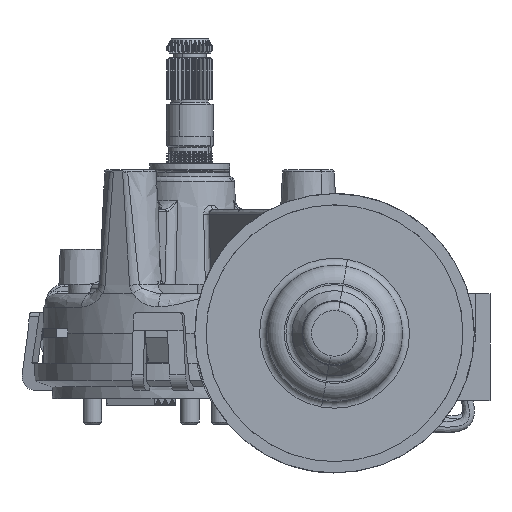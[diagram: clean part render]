
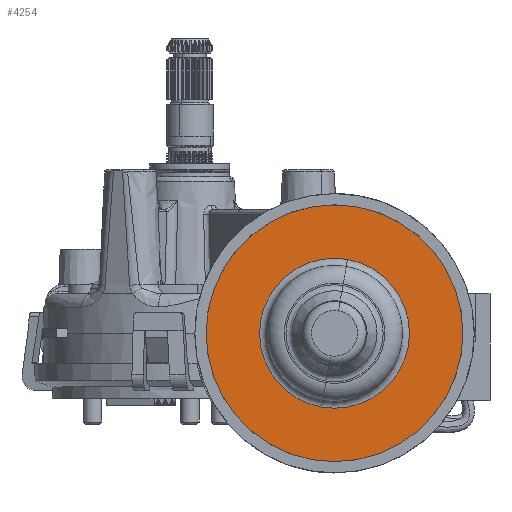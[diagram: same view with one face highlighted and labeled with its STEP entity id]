
A CAD part, front view. The second image highlights one B-rep face of the part: STEP entity #4254.
In plain terms, the highlighted planar face has unit normal (0, -1, 0).
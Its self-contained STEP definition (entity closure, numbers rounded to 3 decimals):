
#4152=AXIS2_PLACEMENT_3D('Plane Axis2P3D',#4149,#4150,#4151) ;
#4156=AXIS2_PLACEMENT_3D('Circle Axis2P3D',#4154,#4155,$) ;
#4165=AXIS2_PLACEMENT_3D('Circle Axis2P3D',#4163,#4164,$) ;
#4172=AXIS2_PLACEMENT_3D('Circle Axis2P3D',#4170,#4171,$) ;
#4179=AXIS2_PLACEMENT_3D('Circle Axis2P3D',#4177,#4178,$) ;
#4186=AXIS2_PLACEMENT_3D('Circle Axis2P3D',#4184,#4185,$) ;
#4193=AXIS2_PLACEMENT_3D('Circle Axis2P3D',#4191,#4192,$) ;
#4200=AXIS2_PLACEMENT_3D('Circle Axis2P3D',#4198,#4199,$) ;
#4207=AXIS2_PLACEMENT_3D('Circle Axis2P3D',#4205,#4206,$) ;
#4214=AXIS2_PLACEMENT_3D('Circle Axis2P3D',#4212,#4213,$) ;
#4221=AXIS2_PLACEMENT_3D('Circle Axis2P3D',#4219,#4220,$) ;
#4238=AXIS2_PLACEMENT_3D('Circle Axis2P3D',#4236,#4237,$) ;
#4247=AXIS2_PLACEMENT_3D('Circle Axis2P3D',#4245,#4246,$) ;
#4149=CARTESIAN_POINT('Axis2P3D Location',(31.,-111.3,9.5)) ;
#4154=CARTESIAN_POINT('Axis2P3D Location',(31.,-111.3,9.5)) ;
#4158=CARTESIAN_POINT('Vertex',(35.775,-111.3,36.582)) ;
#4160=CARTESIAN_POINT('Vertex',(34.49,-111.3,36.778)) ;
#4163=CARTESIAN_POINT('Axis2P3D Location',(31.,-111.3,9.5)) ;
#4167=CARTESIAN_POINT('Vertex',(7.861,-111.3,24.36)) ;
#4170=CARTESIAN_POINT('Axis2P3D Location',(31.,-111.3,9.5)) ;
#4174=CARTESIAN_POINT('Vertex',(3.722,-111.3,12.99)) ;
#4177=CARTESIAN_POINT('Axis2P3D Location',(31.,-111.3,9.5)) ;
#4181=CARTESIAN_POINT('Vertex',(16.14,-111.3,-13.639)) ;
#4184=CARTESIAN_POINT('Axis2P3D Location',(31.,-111.3,9.5)) ;
#4188=CARTESIAN_POINT('Vertex',(26.225,-111.3,-17.582)) ;
#4191=CARTESIAN_POINT('Axis2P3D Location',(31.,-111.3,9.5)) ;
#4195=CARTESIAN_POINT('Vertex',(27.51,-111.3,-17.778)) ;
#4198=CARTESIAN_POINT('Axis2P3D Location',(31.,-111.3,9.5)) ;
#4202=CARTESIAN_POINT('Vertex',(54.139,-111.3,-5.36)) ;
#4205=CARTESIAN_POINT('Axis2P3D Location',(31.,-111.3,9.5)) ;
#4209=CARTESIAN_POINT('Vertex',(58.278,-111.3,6.01)) ;
#4212=CARTESIAN_POINT('Axis2P3D Location',(31.,-111.3,9.5)) ;
#4216=CARTESIAN_POINT('Vertex',(45.86,-111.3,32.639)) ;
#4219=CARTESIAN_POINT('Axis2P3D Location',(31.,-111.3,9.5)) ;
#4236=CARTESIAN_POINT('Axis2P3D Location',(31.,-111.3,9.5)) ;
#4240=CARTESIAN_POINT('Vertex',(33.787,-111.3,25.306)) ;
#4242=CARTESIAN_POINT('Vertex',(28.213,-111.3,-6.306)) ;
#4245=CARTESIAN_POINT('Axis2P3D Location',(31.,-111.3,9.5)) ;
#4150=DIRECTION('Axis2P3D Direction',(0.,-1.,0.)) ;
#4151=DIRECTION('Axis2P3D XDirection',(0.174,0.,0.985)) ;
#4155=DIRECTION('Axis2P3D Direction',(0.,-1.,0.)) ;
#4164=DIRECTION('Axis2P3D Direction',(0.,-1.,0.)) ;
#4171=DIRECTION('Axis2P3D Direction',(0.,-1.,0.)) ;
#4178=DIRECTION('Axis2P3D Direction',(0.,-1.,0.)) ;
#4185=DIRECTION('Axis2P3D Direction',(0.,-1.,0.)) ;
#4192=DIRECTION('Axis2P3D Direction',(0.,-1.,0.)) ;
#4199=DIRECTION('Axis2P3D Direction',(0.,-1.,0.)) ;
#4206=DIRECTION('Axis2P3D Direction',(0.,-1.,0.)) ;
#4213=DIRECTION('Axis2P3D Direction',(0.,-1.,0.)) ;
#4220=DIRECTION('Axis2P3D Direction',(0.,-1.,0.)) ;
#4237=DIRECTION('Axis2P3D Direction',(0.,-1.,0.)) ;
#4246=DIRECTION('Axis2P3D Direction',(0.,-1.,0.)) ;
#4225=ORIENTED_EDGE('',*,*,#4162,.T.) ;
#4226=ORIENTED_EDGE('',*,*,#4169,.T.) ;
#4227=ORIENTED_EDGE('',*,*,#4176,.T.) ;
#4228=ORIENTED_EDGE('',*,*,#4183,.T.) ;
#4229=ORIENTED_EDGE('',*,*,#4190,.T.) ;
#4230=ORIENTED_EDGE('',*,*,#4197,.T.) ;
#4231=ORIENTED_EDGE('',*,*,#4204,.T.) ;
#4232=ORIENTED_EDGE('',*,*,#4211,.T.) ;
#4233=ORIENTED_EDGE('',*,*,#4218,.T.) ;
#4234=ORIENTED_EDGE('',*,*,#4223,.T.) ;
#4251=ORIENTED_EDGE('',*,*,#4244,.F.) ;
#4252=ORIENTED_EDGE('',*,*,#4249,.F.) ;
#4253=FACE_BOUND('',#4250,.T.) ;
#4254=ADVANCED_FACE('',(#4235,#4253),#4153,.T.) ;
#4157=CIRCLE('generated circle',#4156,27.5) ;
#4166=CIRCLE('generated circle',#4165,27.5) ;
#4173=CIRCLE('generated circle',#4172,27.5) ;
#4180=CIRCLE('generated circle',#4179,27.5) ;
#4187=CIRCLE('generated circle',#4186,27.5) ;
#4194=CIRCLE('generated circle',#4193,27.5) ;
#4201=CIRCLE('generated circle',#4200,27.5) ;
#4208=CIRCLE('generated circle',#4207,27.5) ;
#4215=CIRCLE('generated circle',#4214,27.5) ;
#4222=CIRCLE('generated circle',#4221,27.5) ;
#4239=CIRCLE('generated circle',#4238,16.05) ;
#4248=CIRCLE('generated circle',#4247,16.05) ;
#4162=EDGE_CURVE('',#4159,#4161,#4157,.T.) ;
#4169=EDGE_CURVE('',#4161,#4168,#4166,.T.) ;
#4176=EDGE_CURVE('',#4168,#4175,#4173,.T.) ;
#4183=EDGE_CURVE('',#4175,#4182,#4180,.T.) ;
#4190=EDGE_CURVE('',#4182,#4189,#4187,.T.) ;
#4197=EDGE_CURVE('',#4189,#4196,#4194,.T.) ;
#4204=EDGE_CURVE('',#4196,#4203,#4201,.T.) ;
#4211=EDGE_CURVE('',#4203,#4210,#4208,.T.) ;
#4218=EDGE_CURVE('',#4210,#4217,#4215,.T.) ;
#4223=EDGE_CURVE('',#4217,#4159,#4222,.T.) ;
#4244=EDGE_CURVE('',#4241,#4243,#4239,.T.) ;
#4249=EDGE_CURVE('',#4243,#4241,#4248,.T.) ;
#4224=EDGE_LOOP('',(#4225,#4226,#4227,#4228,#4229,#4230,#4231,#4232,#4233,#4234)) ;
#4250=EDGE_LOOP('',(#4251,#4252)) ;
#4235=FACE_OUTER_BOUND('',#4224,.T.) ;
#4153=PLANE('Plane',#4152) ;
#4159=VERTEX_POINT('',#4158) ;
#4161=VERTEX_POINT('',#4160) ;
#4168=VERTEX_POINT('',#4167) ;
#4175=VERTEX_POINT('',#4174) ;
#4182=VERTEX_POINT('',#4181) ;
#4189=VERTEX_POINT('',#4188) ;
#4196=VERTEX_POINT('',#4195) ;
#4203=VERTEX_POINT('',#4202) ;
#4210=VERTEX_POINT('',#4209) ;
#4217=VERTEX_POINT('',#4216) ;
#4241=VERTEX_POINT('',#4240) ;
#4243=VERTEX_POINT('',#4242) ;
